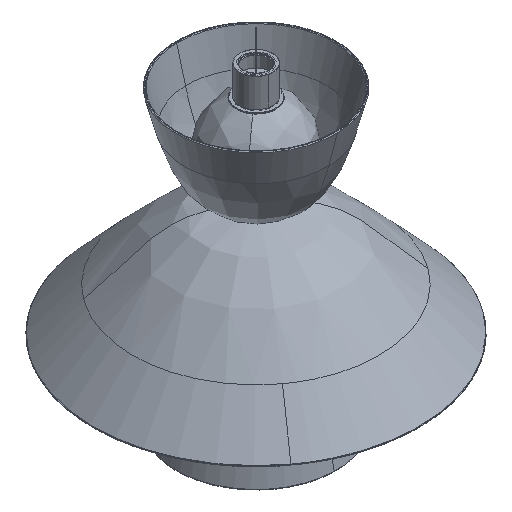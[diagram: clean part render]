
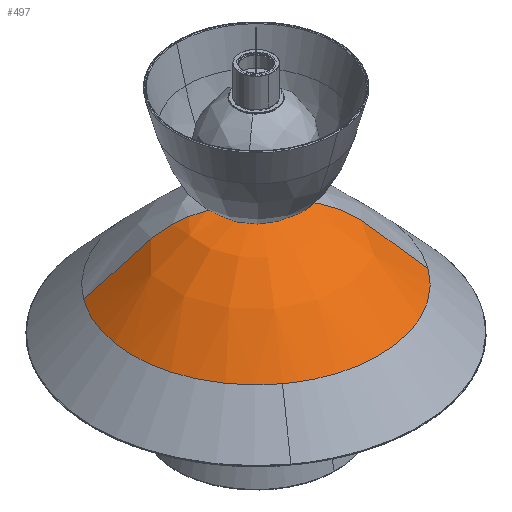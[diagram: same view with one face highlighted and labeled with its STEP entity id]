
A CAD part, isometric view. The second image highlights one B-rep face of the part: STEP entity #497.
In plain terms, the highlighted free-form (B-spline) face has degree [3, 2] with [4, 5] control points.
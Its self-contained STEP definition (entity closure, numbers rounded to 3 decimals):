
#497=ADVANCED_FACE('',(#825),#4621,.T.);
#825=FACE_OUTER_BOUND('',#1152,.T.);
#1152=EDGE_LOOP('',(#2500,#2501,#2502,#2503,#2504));
#2500=ORIENTED_EDGE('',*,*,#3298,.T.);
#2501=ORIENTED_EDGE('',*,*,#3299,.T.);
#2502=ORIENTED_EDGE('',*,*,#3261,.F.);
#2503=ORIENTED_EDGE('',*,*,#3287,.F.);
#2504=ORIENTED_EDGE('',*,*,#3286,.F.);
#3261=EDGE_CURVE('',#4443,#4442,#3492,.T.);
#3286=EDGE_CURVE('',#4444,#4461,#4012,.T.);
#3287=EDGE_CURVE('',#4461,#4443,#4013,.T.);
#3298=EDGE_CURVE('',#4444,#4467,#4015,.T.);
#3299=EDGE_CURVE('',#4467,#4442,#3503,.T.);
#3492=B_SPLINE_CURVE_WITH_KNOTS('',3,(#18074,#18075,#18076,#18077),
 .UNSPECIFIED.,.F.,.F.,(4,4),(0.,257.233),
 .UNSPECIFIED.);
#3503=B_SPLINE_CURVE_WITH_KNOTS('',3,(#18228,#18229,#18230,#18231,#18232,
#18233,#18234,#18235,#18236,#18237,#18238),.UNSPECIFIED.,.F.,.F.,(4,1,1,
1,1,1,1,1,4),(-91.438,-78.375,-69.667,-60.958,
-52.25,-43.542,-26.125,-13.063,
0.),.UNSPECIFIED.);
#4012=(
BOUNDED_CURVE()
B_SPLINE_CURVE(2,(#18159,#18160,#18161),.UNSPECIFIED.,.F.,.F.)
B_SPLINE_CURVE_WITH_KNOTS((3,3),(0.,291.384),.UNSPECIFIED.)
CURVE()
GEOMETRIC_REPRESENTATION_ITEM()
RATIONAL_B_SPLINE_CURVE((1.,0.707,1.))
REPRESENTATION_ITEM('')
);
#4013=(
BOUNDED_CURVE()
B_SPLINE_CURVE(2,(#18162,#18163,#18164),.UNSPECIFIED.,.F.,.F.)
B_SPLINE_CURVE_WITH_KNOTS((3,3),(291.384,582.767),
 .UNSPECIFIED.)
CURVE()
GEOMETRIC_REPRESENTATION_ITEM()
RATIONAL_B_SPLINE_CURVE((1.,0.707,1.))
REPRESENTATION_ITEM('')
);
#4015=(
BOUNDED_CURVE()
B_SPLINE_CURVE(3,(#18224,#18225,#18226,#18227),.UNSPECIFIED.,.F.,.F.)
B_SPLINE_CURVE_WITH_KNOTS((4,4),(0.,256.744),
 .UNSPECIFIED.)
CURVE()
GEOMETRIC_REPRESENTATION_ITEM()
RATIONAL_B_SPLINE_CURVE((1.,1.,1.,1.))
REPRESENTATION_ITEM('')
);
#4442=VERTEX_POINT('',#17952);
#4443=VERTEX_POINT('',#17953);
#4444=VERTEX_POINT('',#17954);
#4461=VERTEX_POINT('',#17971);
#4467=VERTEX_POINT('',#17977);
#4621=(
BOUNDED_SURFACE()
B_SPLINE_SURFACE(3,2,((#17215,#17216,#17217,#17218,#17219),(#17220,#17221,
#17222,#17223,#17224),(#17225,#17226,#17227,#17228,#17229),(#17230,#17231,
#17232,#17233,#17234)),.UNSPECIFIED.,.F.,.F.,.F.)
B_SPLINE_SURFACE_WITH_KNOTS((4,4),(3,2,3),(0.,259.951),
(742.002,1113.003,1484.004),.UNSPECIFIED.)
GEOMETRIC_REPRESENTATION_ITEM()
RATIONAL_B_SPLINE_SURFACE(((1.,0.707,1.,0.707,1.),
(1.,0.707,1.,0.707,1.),(1.,0.707,1.,
0.707,1.),(1.,0.707,1.,0.707,1.)))
REPRESENTATION_ITEM('')
SURFACE()
);
#17215=CARTESIAN_POINT('',(0.,-185.328,-104.067));
#17216=CARTESIAN_POINT('',(-185.501,-185.328,-104.067));
#17217=CARTESIAN_POINT('',(-185.501,0.172,-104.067));
#17218=CARTESIAN_POINT('',(-185.501,185.673,-104.067));
#17219=CARTESIAN_POINT('',(0.,185.673,-104.067));
#17220=CARTESIAN_POINT('',(0.,-118.654,-32.662));
#17221=CARTESIAN_POINT('',(-118.826,-118.654,-32.662));
#17222=CARTESIAN_POINT('',(-118.826,0.172,-32.662));
#17223=CARTESIAN_POINT('',(-118.826,118.999,-32.662));
#17224=CARTESIAN_POINT('',(0.,118.999,-32.662));
#17225=CARTESIAN_POINT('',(0.,-88.157,0.));
#17226=CARTESIAN_POINT('',(-88.329,-88.157,0.));
#17227=CARTESIAN_POINT('',(-88.329,0.172,0.));
#17228=CARTESIAN_POINT('',(-88.329,88.501,0.));
#17229=CARTESIAN_POINT('',(0.,88.501,0.));
#17230=CARTESIAN_POINT('',(0.,-26.234,0.));
#17231=CARTESIAN_POINT('',(-26.406,-26.234,0.));
#17232=CARTESIAN_POINT('',(-26.406,0.172,0.));
#17233=CARTESIAN_POINT('',(-26.406,26.579,0.));
#17234=CARTESIAN_POINT('',(0.,26.579,0.));
#17952=CARTESIAN_POINT('',(0.,28.511,-0.011));
#17953=CARTESIAN_POINT('',(0.,185.673,-104.067));
#17954=CARTESIAN_POINT('',(0.,-185.328,-104.067));
#17971=CARTESIAN_POINT('',(-185.501,0.172,-104.067));
#17977=CARTESIAN_POINT('',(0.,-28.512,-0.015));
#18074=CARTESIAN_POINT('',(0.,185.673,-104.067));
#18075=CARTESIAN_POINT('',(0.,119.696,-33.408));
#18076=CARTESIAN_POINT('',(0.,89.143,-0.687));
#18077=CARTESIAN_POINT('',(0.,28.511,-0.011));
#18159=CARTESIAN_POINT('',(0.,-185.328,-104.067));
#18160=CARTESIAN_POINT('',(-185.501,-185.328,-104.067));
#18161=CARTESIAN_POINT('',(-185.501,0.172,-104.067));
#18162=CARTESIAN_POINT('',(-185.501,0.172,-104.067));
#18163=CARTESIAN_POINT('',(-185.501,185.673,-104.067));
#18164=CARTESIAN_POINT('',(0.,185.673,-104.067));
#18224=CARTESIAN_POINT('',(0.,-185.328,-104.067));
#18225=CARTESIAN_POINT('',(0.,-119.476,-33.543));
#18226=CARTESIAN_POINT('',(0.,-88.915,-0.812));
#18227=CARTESIAN_POINT('',(0.,-28.512,-0.015));
#18228=CARTESIAN_POINT('',(0.,-28.512,-0.015));
#18229=CARTESIAN_POINT('',(-4.265,-28.503,-0.015));
#18230=CARTESIAN_POINT('',(-11.373,-26.902,-0.015));
#18231=CARTESIAN_POINT('',(-19.683,-21.209,-0.014));
#18232=CARTESIAN_POINT('',(-25.068,-14.473,-0.014));
#18233=CARTESIAN_POINT('',(-28.208,-6.441,-0.013));
#18234=CARTESIAN_POINT('',(-29.096,5.037,-0.012));
#18235=CARTESIAN_POINT('',(-24.21,17.48,-0.011));
#18236=CARTESIAN_POINT('',(-12.785,26.565,-0.011));
#18237=CARTESIAN_POINT('',(-4.265,28.511,-0.011));
#18238=CARTESIAN_POINT('',(0.,28.511,-0.011));
